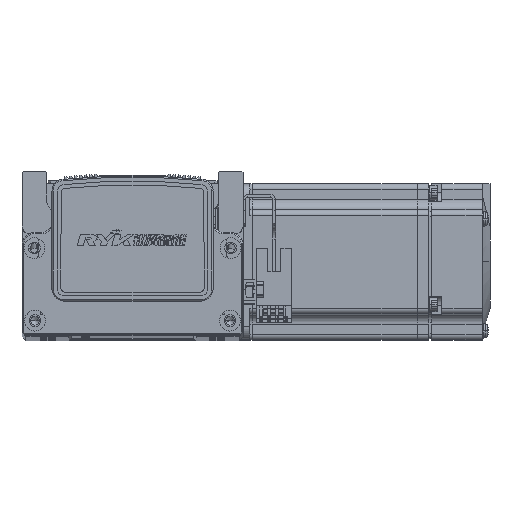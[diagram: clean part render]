
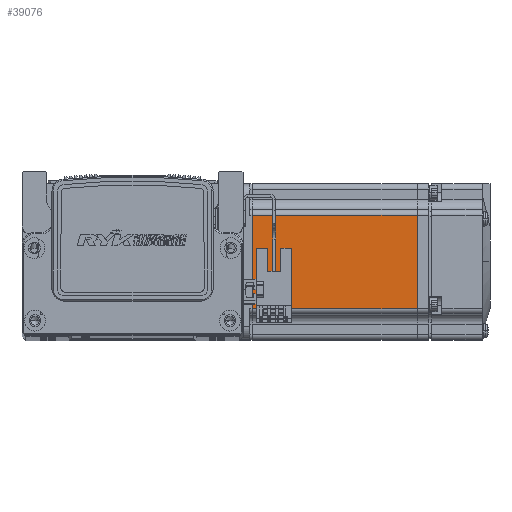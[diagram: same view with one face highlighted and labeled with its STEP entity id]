
A CAD part, top view. The second image highlights one B-rep face of the part: STEP entity #39076.
In plain terms, the highlighted planar face has unit normal (0, 0, 1) as drawn and (0, 0, -1) by its records, which use the part's own axes.
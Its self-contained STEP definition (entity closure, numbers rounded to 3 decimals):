
#1959 = EDGE_CURVE ( 'NONE', #64485, #64463, #77939, .T. ) ;
#1985 = EDGE_CURVE ( 'NONE', #64463, #64311, #77945, .T. ) ;
#1991 = EDGE_CURVE ( 'NONE', #64311, #64390, #77929, .T. ) ;
#2010 = EDGE_CURVE ( 'NONE', #64390, #64485, #77997, .T. ) ;
#24452 = CARTESIAN_POINT ( 'NONE',  ( -70.95, 18., -30. ) ) ;
#24681 = CARTESIAN_POINT ( 'NONE',  ( -7.75, 18., -30. ) ) ;
#24937 = CARTESIAN_POINT ( 'NONE',  ( -70.95, -18., -30. ) ) ;
#24978 = CARTESIAN_POINT ( 'NONE',  ( -7.75, -18., -30. ) ) ;
#29866 = ORIENTED_EDGE ( 'NONE', *, *, #1991, .T. ) ;
#31008 = ORIENTED_EDGE ( 'NONE', *, *, #1985, .T. ) ;
#31009 = ORIENTED_EDGE ( 'NONE', *, *, #2010, .T. ) ;
#31026 = ORIENTED_EDGE ( 'NONE', *, *, #1959, .T. ) ;
#39076 = ADVANCED_FACE ( 'NONE', ( #70423 ), #73349, .T. ) ;
#54913 = EDGE_LOOP ( 'NONE', ( #31009, #31026, #31008, #29866 ) ) ;
#64311 = VERTEX_POINT ( 'NONE', #24452 ) ;
#64390 = VERTEX_POINT ( 'NONE', #24681 ) ;
#64463 = VERTEX_POINT ( 'NONE', #24937 ) ;
#64485 = VERTEX_POINT ( 'NONE', #24978 ) ;
#70423 = FACE_OUTER_BOUND ( 'NONE', #54913, .T. ) ;
#73302 = DIRECTION ( 'NONE',  ( 0., 0., -1. ) ) ;
#73326 = CARTESIAN_POINT ( 'NONE',  ( -6.5, 25., -30. ) ) ;
#73348 = DIRECTION ( 'NONE',  ( -1., 0., 0. ) ) ;
#73349 = PLANE ( 'NONE',  #82400 ) ;
#76551 = CARTESIAN_POINT ( 'NONE',  ( -6.5, -18., -30. ) ) ;
#76552 = DIRECTION ( 'NONE',  ( -1., 0., 0. ) ) ;
#76613 = CARTESIAN_POINT ( 'NONE',  ( -6.5, 18., -30. ) ) ;
#76616 = DIRECTION ( 'NONE',  ( 1., 0., 0. ) ) ;
#76620 = DIRECTION ( 'NONE',  ( 0., 1., 0. ) ) ;
#76656 = CARTESIAN_POINT ( 'NONE',  ( -70.95, 25., -30. ) ) ;
#76659 = DIRECTION ( 'NONE',  ( 0., -1., 0. ) ) ;
#76664 = CARTESIAN_POINT ( 'NONE',  ( -7.75, 25., -30. ) ) ;
#77903 = VECTOR ( 'NONE', #76616, 1000. ) ;
#77911 = VECTOR ( 'NONE', #76552, 1000. ) ;
#77917 = VECTOR ( 'NONE', #76620, 1000. ) ;
#77929 = LINE ( 'NONE', #76613, #77903 ) ;
#77939 = LINE ( 'NONE', #76551, #77911 ) ;
#77945 = LINE ( 'NONE', #76656, #77917 ) ;
#77965 = VECTOR ( 'NONE', #76659, 1000. ) ;
#77997 = LINE ( 'NONE', #76664, #77965 ) ;
#82400 = AXIS2_PLACEMENT_3D ( 'NONE', #73326, #73302, #73348 ) ;
